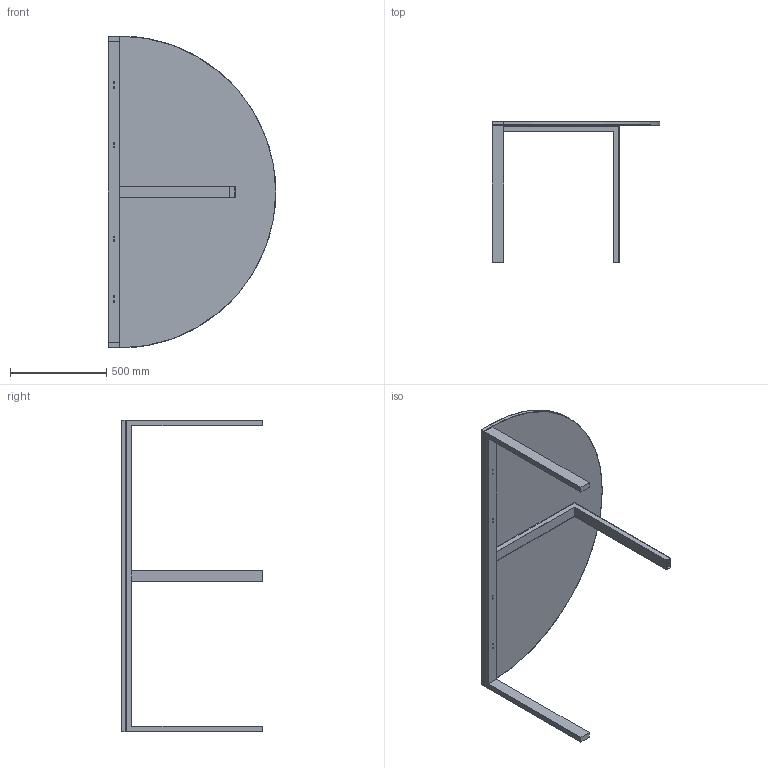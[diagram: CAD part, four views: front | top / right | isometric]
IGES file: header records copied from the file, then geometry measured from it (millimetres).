
Start section: SolidWorks IGES file using analytic representation for surfaces
Global section: file name: C:\Users\hcaixa\Documents\Gabinete Tecnico\72_produtos cliente\Timsteel\Mesas\Mesas Escritorio Operativas\Sistema Level Timsteel\AREIA-STUDIO FURNITURE CONCEPT\IGS\MESA GOTA RED 1620.IGS; native system: SolidWorks 2014; preprocessor: SolidWorks 2014; author: hcaixa; date: 190702.175234; units: millimetre
Bounding box: 870 x 733 x 1620 mm (x, y, z)
Surface area: 3321975.8 mm2 (no closed solid volume)
Topology: 0 solids, 0 shells, 46 faces, 782 edges, 782 vertices
Faces by surface type: bspline 29, revolution 17
